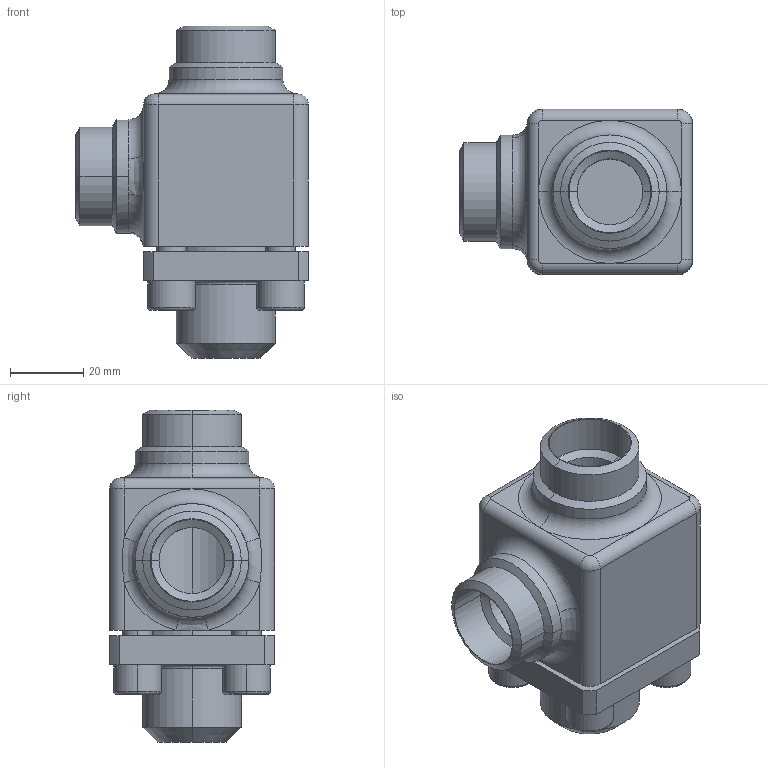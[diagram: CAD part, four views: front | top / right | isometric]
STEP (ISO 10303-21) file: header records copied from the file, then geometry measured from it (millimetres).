
FILE_DESCRIPTION (( 'STEP AP214' ), '1' );
FILE_NAME ('RV98400-DN020_R1_PS40.STEP', '2006-05-02T09:34:45', ( 'Herr Grams' ), ( 'AWP GmbH' ), 'SwSTEP 2.0', 'SolidWorks 2002296', '' );
FILE_SCHEMA (( 'AUTOMOTIVE_DESIGN' ));
Length unit declared in the file: millimetre
Products named in the file (5): RV98400-DN020_R1_PS40; Gehäuse96400E11-DN20_PS40_R1_Standard; RV98300E11_Deck+Schr-DN20_Standard; Zylinderschraube-DIN912_M 8x 20; Deckel98300E11-DN20_PS40_Standard
Assembly tree (7 placements, depth 3):
  RV98400-DN020_R1_PS40
    RV98300E11_Deck+Schr-DN20_Standard
      Zylinderschraube-DIN912_M 8x 20  x4
      Deckel98300E11-DN20_PS40_Standard
    Gehäuse96400E11-DN20_PS40_R1_Standard
Bounding box: 63.5 x 45 x 90.5 mm (x, y, z)
Volume: 102910.5 mm3; surface area: 32733.6 mm2
Topology: 6 solids, 6 shells, 176 faces, 391 edges, 239 vertices
Faces by surface type: plane 66, cylinder 64, cone 24, torus 19, bspline 3
Entity records: 6435 total; most frequent: CARTESIAN_POINT 3029, DIRECTION 664, ORIENTED_EDGE 554, EDGE_CURVE 277, AXIS2_PLACEMENT_3D 271, VERTEX_POINT 167, CIRCLE 141, EDGE_LOOP 140
